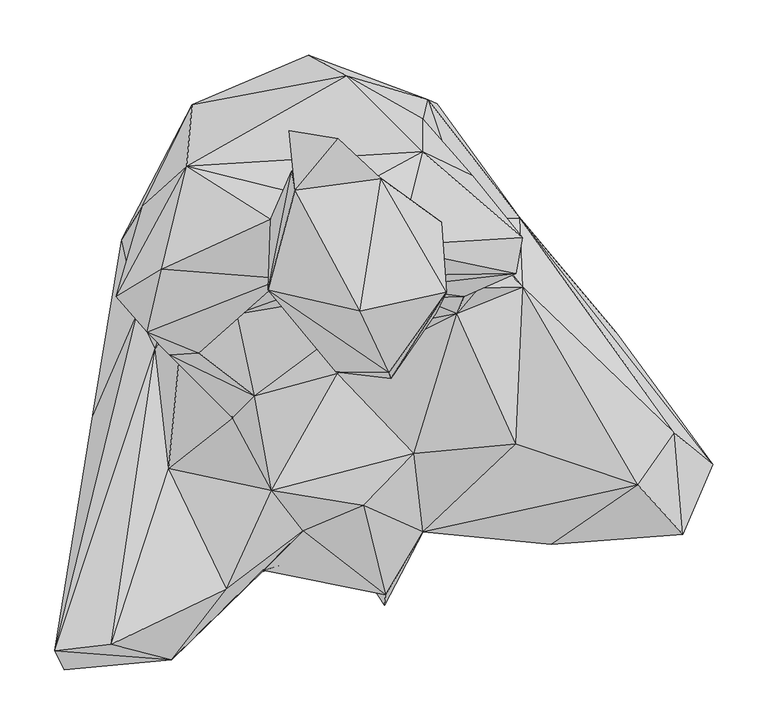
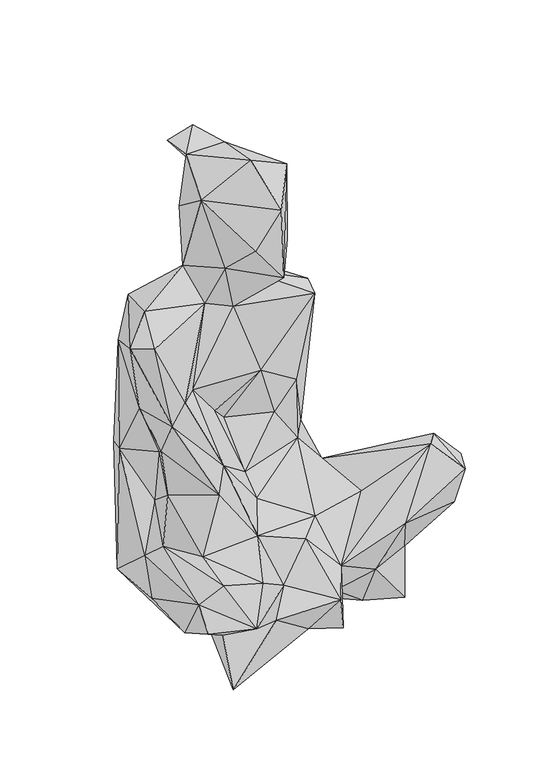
"""IFC4 building model written with IfcOpenShell, lengths in millimetres: geographic element geometry, Enscape AssetDefinition - Asya 001 Sitting : Enscape AssetDefinition - Asya 001 Sitting."""

from ifc_helpers import new_model, si_unit, origin, place, context, project, spatial, triangles, source, transform, mapped, element, save


def geographic_element_ff00894e(model_context):
    return source(origin(), model_context, "Body", "Tessellation", [
        triangles([(-247.0952737, -226.2178416, 185.5318621), (-221.2727946, 5.6974266, 109.0178006), (-255.6989818, -208.8141983, 238.0845047), (-180.2465016, 100.3485078, 124.855851), (-194.897624, 165.9597101, 62.8164419), (-164.4781327, 67.0380819, 157.4083062), (-154.9407424, 229.6441586, 254.3710832), (-152.1583541, -42.6565033, 198.7766387), (-204.2127168, -203.0358446, 255.5554223), (-149.0532748, -216.8512985, 157.0326569), (-98.9202247, -152.2811028, 192.7092402), (-58.0441451, -62.4254002, 220.0979572), (-135.9106177, 144.2123184, 194.8240638), (-118.2688893, 160.4874787, 276.2053973), (-138.9591689, 96.7040991, 233.7809701), (-155.6151744, 161.4255755, 376.8721633), (-140.406873, 114.8021405, 312.4493514), (-93.806538, 3.4385361, 275.1760815), (-150.9535312, 60.9803122, 398.7899025), (-171.4574123, 81.9649279, 549.265129), (-175.7885433, 197.1342244, 500.6569768), (-199.9330543, 114.0208201, 541.2927232), (-124.7177144, 62.6899734, 436.3648619), (-89.651877, 98.2219934, 428.9002376), (-158.1441261, 139.0419582, 587.8737099), (-48.1958772, 130.379887, 570.8192639), (-26.8365773, 99.879305, 651.9308464), (-59.0291958, 184.5141735, 618.3602211), (-61.493285, 119.7960036, 789.7950331), (-4.5831868, 200.7485569, 612.7660858), (0.6233867, 45.1711118, 710.0080427), (-40.0601729, 228.5723491, 705.8612028), (24.0716525, 234.7716073, 733.264472), (-42.287744, 265.1390669, 816.3655043), (22.4725972, 101.01233, 852.670483), (-36.8204678, 211.0076509, 818.8347576), (2.4606817, 258.0830114, 836.4632601), (101.2395962, 117.9636754, 808.1845356), (41.4819202, 221.5133868, 810.3944298), (49.0838681, 45.0094211, 776.4498447), (92.1869875, 99.3629666, 670.5007885), (96.8314351, 181.901942, 756.4220701), (56.9916067, 157.1679684, 641.3837431), (79.362525, 246.2383129, 550.5029531), (125.0298138, 224.2710855, 460.8238704), (79.3622434, 276.4708971, 435.337054), (170.5595384, 167.9835146, 521.6671406), (-130.7130152, 289.3164974, 223.3331522), (-135.6298209, 233.0859544, 557.3121305), (-24.6263221, 334.4198853, 197.234182), (-140.227896, 245.3131332, 29.2212996), (44.4750605, 294.2602, 26.1961481), (-140.9800757, 169.2144897, -5.5528531), (-228.1178528, -115.4430807, 115.0953003), (-140.5453366, 79.0670398, 1.3085485), (-42.4795837, 232.5466523, -1.0384992), (92.65887, 290.2353912, 79.6707275), (162.4112712, 193.241893, 29.8411859), (97.5766022, 208.5326021, -11.17395), (168.0769682, 185.7940917, 126.495095), (255.6524004, 81.9019412, 147.5348627), (143.3332387, 91.5530327, 37.4169612), (84.4259151, 293.5821164, 202.3225523), (10.1096505, 315.6175083, 335.0778757), (72.2407531, 241.9484403, 257.4008401), (121.4752888, 184.9973744, 172.1865284), (130.7664822, 121.8078629, 276.1074926), (98.8190227, 196.9570005, 278.799861), (147.902264, 174.261529, 352.1650231), (117.3570173, 114.3359353, 368.5058135), (44.9469067, 159.9971744, 588.9189222), (164.8032582, 135.2116869, 513.1889153), (-34.8174787, 119.5798558, 354.5095748), (54.3854295, 122.5205193, 403.9936546), (-1.7139714, 147.4907702, 313.0274048), (50.6903107, 39.5067183, 642.5284407), (7.5478627, 132.6367895, 543.13022), (-1.9866175, 76.8394413, 245.5371202), (75.2337209, 112.8732339, 318.2246166), (2.0858092, 44.1756375, 210.0466267), (-73.559677, 23.2985393, 314.6804652), (71.8623787, -28.7360753, 194.6007671), (111.0818552, 98.4897732, 262.0122047), (-29.5174865, -99.5463766, 132.3124907), (164.4888333, -20.0270479, 207.0279701), (171.1225854, 122.6725994, 184.7105096), (309.109657, -10.1146329, 267.6184214), (197.0948555, -111.7395186, 185.7026184), (275.585377, -57.7865663, 286.3444405), (343.9858712, -39.0556784, 231.9979757), (316.575771, -102.6783166, 248.3735023), (299.2850023, -95.3944952, 184.0711591), (152.2857083, -89.2635195, 94.7876009), (213.4903481, -79.2591247, 114.8492216), (247.0832105, 38.3576923, 124.9279668), (208.4972663, -13.8965491, 60.7564932), (197.8589622, -106.3360239, 32.2725032), (80.0331327, -100.3913377, 133.378414), (75.8482273, -87.7293471, 77.5139823), (152.444801, -45.4561053, 5.5569163), (151.5974872, 1.959619, 12.9099576), (25.6070444, -76.1165249, 193.0407061), (44.7771633, -167.4721178, 61.6972833), (45.7318834, -157.9524772, 112.184268), (-166.5095494, -135.021891, 100.4557142), (-65.2498599, -135.5519459, 95.9310267), (-165.7227515, -167.3099911, 9.6495813), (-133.8289043, -101.426894, -2.3407055), (-149.1796933, -60.7230786, 60.8095059), (9.7917022, -113.1790019, 38.6309496), (-81.3485139, -0.7258174, 20.2506603), (27.3784115, 12.4761893, 26.6655712)], [[112, 111, 55], [110, 111, 112], [110, 108, 111], [55, 109, 54], [111, 108, 109], [111, 109, 55], [110, 107, 108], [108, 107, 109], [109, 107, 105], [109, 105, 54], [10, 54, 105], [106, 107, 110], [10, 105, 106], [105, 107, 106], [10, 84, 11], [10, 106, 84], [110, 104, 106], [106, 104, 84], [84, 104, 102], [110, 103, 104], [102, 104, 98], [98, 104, 103], [99, 110, 112], [98, 103, 99], [103, 110, 99], [100, 99, 112], [62, 101, 112], [100, 112, 101], [62, 96, 101], [96, 97, 101], [97, 100, 101], [97, 93, 100], [98, 99, 93], [99, 100, 93], [94, 97, 96], [93, 97, 94], [61, 95, 96], [95, 94, 96], [95, 92, 94], [88, 94, 92], [88, 93, 94], [98, 93, 88], [88, 92, 91], [90, 91, 92], [90, 95, 61], [90, 92, 95], [61, 60, 90], [87, 91, 90], [87, 90, 60], [89, 91, 87], [88, 91, 89], [98, 88, 89], [86, 89, 87], [60, 86, 87], [85, 89, 86], [85, 98, 89], [83, 85, 86], [82, 85, 83], [82, 98, 85], [102, 98, 82], [12, 102, 82], [84, 102, 12], [11, 84, 12], [80, 82, 83], [12, 82, 80], [81, 12, 80], [81, 80, 78], [78, 80, 83], [78, 83, 79], [75, 78, 79], [73, 78, 75], [81, 78, 73], [81, 73, 24], [76, 77, 71], [24, 74, 77], [74, 75, 79], [24, 73, 74], [73, 75, 74], [74, 79, 70], [79, 83, 70], [74, 70, 72], [71, 72, 47], [77, 72, 71], [74, 72, 77], [83, 86, 67], [70, 83, 67], [70, 67, 72], [72, 67, 69], [72, 69, 47], [47, 69, 45], [69, 68, 45], [67, 68, 69], [68, 67, 86], [86, 60, 66], [68, 86, 66], [65, 46, 45], [45, 68, 65], [68, 66, 65], [46, 65, 64], [63, 65, 66], [63, 66, 60], [63, 50, 64], [64, 65, 63], [63, 60, 57], [63, 57, 50], [61, 96, 58], [58, 96, 62], [60, 58, 57], [58, 60, 61], [62, 59, 58], [59, 62, 112], [58, 52, 57], [58, 59, 52], [57, 52, 50], [56, 59, 112], [59, 56, 52], [56, 112, 55], [56, 55, 53], [53, 55, 54], [53, 54, 5], [52, 51, 50], [56, 51, 52], [53, 51, 56], [53, 5, 51], [50, 51, 48], [48, 5, 7], [50, 48, 64], [51, 5, 48], [7, 21, 48], [64, 48, 49], [21, 49, 48], [44, 71, 47], [44, 46, 64], [47, 45, 44], [44, 45, 46], [64, 49, 44], [44, 49, 30], [43, 44, 30], [43, 71, 44], [41, 71, 43], [41, 76, 71], [42, 41, 43], [42, 43, 33], [43, 30, 33], [37, 33, 34], [42, 33, 39], [39, 33, 37], [39, 38, 42], [42, 38, 41], [76, 41, 38], [40, 76, 38], [39, 35, 38], [35, 40, 38], [36, 39, 37], [33, 36, 34], [35, 39, 36], [34, 36, 37], [33, 30, 32], [33, 32, 36], [35, 29, 40], [29, 35, 36], [32, 29, 36], [29, 31, 40], [31, 76, 40], [76, 31, 27], [27, 77, 76], [31, 29, 27], [30, 28, 32], [28, 27, 29], [49, 28, 30], [28, 29, 32], [25, 28, 49], [26, 27, 28], [25, 26, 28], [24, 77, 26], [77, 27, 26], [23, 24, 26], [23, 81, 24], [25, 20, 26], [20, 23, 26], [22, 20, 25], [22, 25, 49], [21, 22, 49], [21, 16, 22], [7, 16, 21], [19, 81, 23], [20, 19, 23], [16, 19, 22], [22, 19, 20], [18, 12, 81], [18, 81, 19], [18, 19, 17], [17, 19, 16], [14, 16, 7], [17, 16, 14], [7, 13, 14], [14, 15, 17], [13, 15, 14], [15, 18, 17], [15, 8, 18], [18, 8, 12], [8, 11, 12], [8, 9, 11], [9, 10, 11], [6, 8, 15], [6, 15, 13], [6, 9, 8], [4, 13, 7], [4, 6, 13], [5, 4, 7], [54, 2, 5], [2, 4, 5], [3, 9, 6], [2, 54, 3], [3, 10, 9], [3, 6, 4], [2, 3, 4], [3, 1, 10], [10, 1, 54], [1, 3, 54]]),
    ])


if __name__ == "__main__":
    model = new_model("IFC4")
    model_context = context("Model", 3, world=origin())
    ifc_project = project(units=[si_unit("LENGTHUNIT", "METRE", prefix="MILLI")], contexts=[model_context])
    site = spatial("IfcSite", under=ifc_project)
    building = spatial("IfcBuilding", under=site)
    placement = place(None, origin())
    geographic_element_shape = geographic_element_ff00894e(model_context)
    element("IfcGeographicElement", 1, ObjectType="Enscape AssetDefinition - Asya 001 Sitting : Enscape AssetDefinition - Asya 001 Sitting", at=placement, inside=building, context=model_context, shape_type="MappedRepresentation", body=[
        mapped(geographic_element_shape, transform((0.0, 0.0, 0.0), x_axis=(1.0, 0.0, 0.0), y_axis=(0.0, 1.0, 0.0), z_axis=(0.0, 0.0, 1.0))),
    ])
    save(model, "model.ifc")
